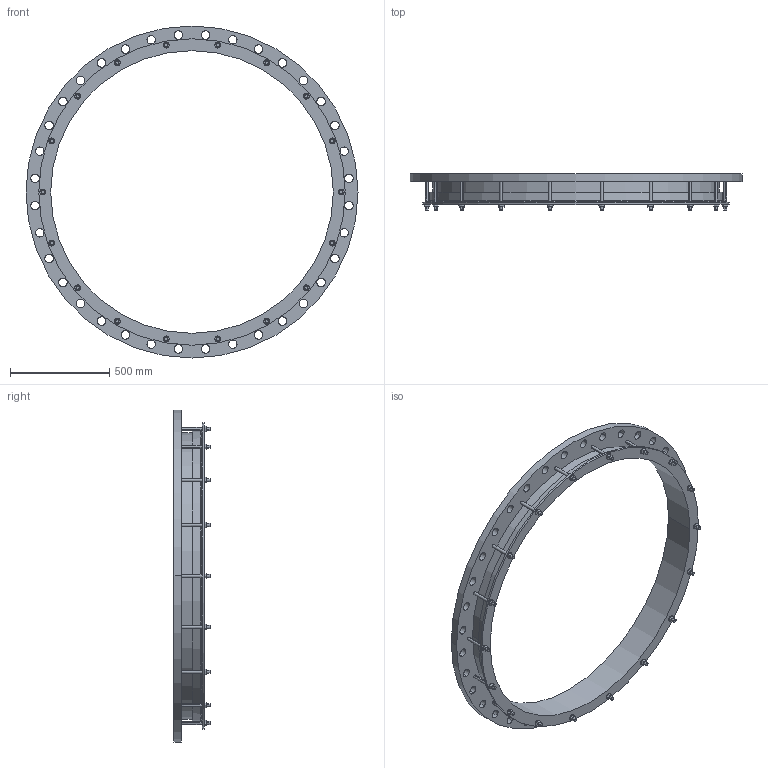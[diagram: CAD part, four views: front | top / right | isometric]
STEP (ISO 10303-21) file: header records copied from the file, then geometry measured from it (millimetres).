
FILE_DESCRIPTION((''),'2;1');
FILE_NAME('1422X1400PN10_9NOT','2019-01-17T',('mfairey'),('Glynwed Pipe Systems'),'CREO PARAMETRIC BY PTC INC, 2016130','CREO PARAMETRIC BY PTC INC, 2016130','');
FILE_SCHEMA(('CONFIG_CONTROL_DESIGN'));
Length unit declared in the file: millimetre
Products named in the file (1): 1422X1400PN10_9NOT
Bounding box: 1675 x 182 x 1675 mm (x, y, z)
Volume: 33290346 mm3; surface area: 3259774.9 mm2
Topology: 1 solids, 1 shells, 360 faces, 956 edges, 636 vertices
Faces by surface type: cylinder 188, plane 166, cone 4, torus 2
Entity records: 12794 total; most frequent: CARTESIAN_POINT 3348, DIRECTION 1964, ORIENTED_EDGE 1912, EDGE_CURVE 956, AXIS2_PLACEMENT_3D 724, VERTEX_POINT 636, VECTOR 516, LINE 516
